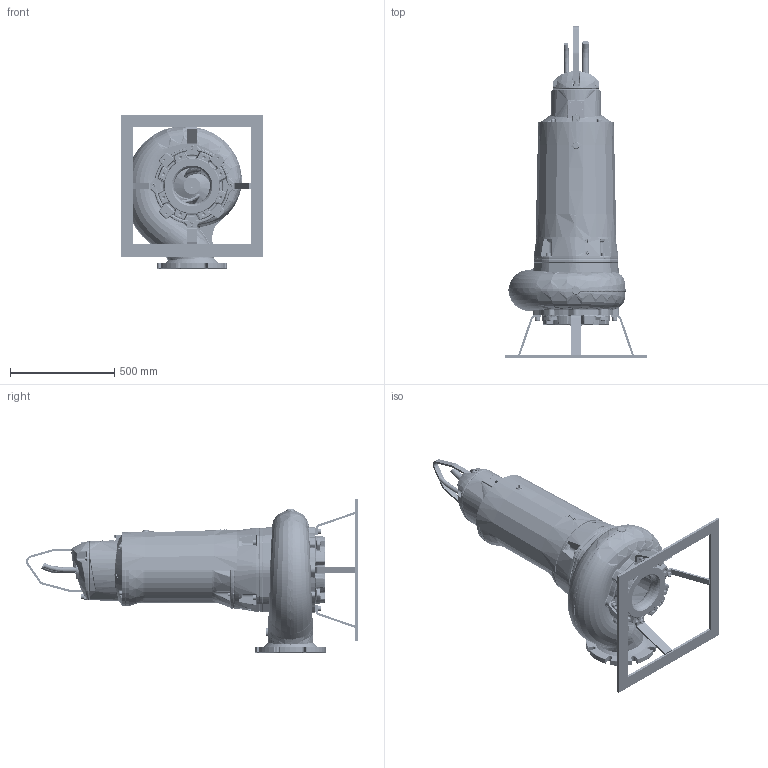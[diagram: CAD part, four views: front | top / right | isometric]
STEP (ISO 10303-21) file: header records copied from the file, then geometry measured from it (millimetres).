
FILE_DESCRIPTION (( 'STEP AP203' ), '1' );
FILE_NAME ('310101913.STEP', '2021-12-06T09:05:09', ( '' ), ( '' ), 'SwSTEP 2.0', 'SolidWorks 2017', '' );
FILE_SCHEMA (( 'CONFIG_CONTROL_DESIGN' ));
Products named in the file (2): 310101913
Bounding box: 682 x 1593.2 x 741 mm (x, y, z)
Volume: 46839397 mm3; surface area: 7108841.1 mm2
Topology: 67 solids, 67 shells, 8209 faces, 19457 edges, 11119 vertices
Faces by surface type: bspline 2683, cylinder 2048, plane 1857, torus 820, sphere 455, cone 346
Full cylindrical faces by diameter (mm): 2.295 x2, 2.9 x4, 3 x4, 3.2 x4, 4.2 x3, 5 x14, 5.3 x4, 5.9 x3, 6 x13, 6.6 x1, 6.8 x10, 8 x16, 8.5 x4, 9 x5, 10 x15, 10.2 x12, 10.5 x3, 11 x5, 12 x27, 12.4 x1, 13 x18, 14 x13, 15 x3, 16 x28, 16.5 x2, 17 x9, 17.5 x8, 17.89 x1, 18 x21, 20 x20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
Entity records: 515661 total; most frequent: CARTESIAN_POINT 354374, ORIENTED_EDGE 35842, DIRECTION 29035, EDGE_CURVE 17921, AXIS2_PLACEMENT_3D 11898, VERTEX_POINT 10888, EDGE_LOOP 9413, FACE_OUTER_BOUND 8749
